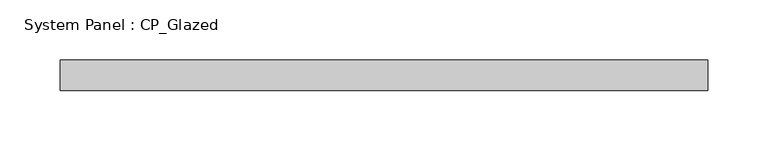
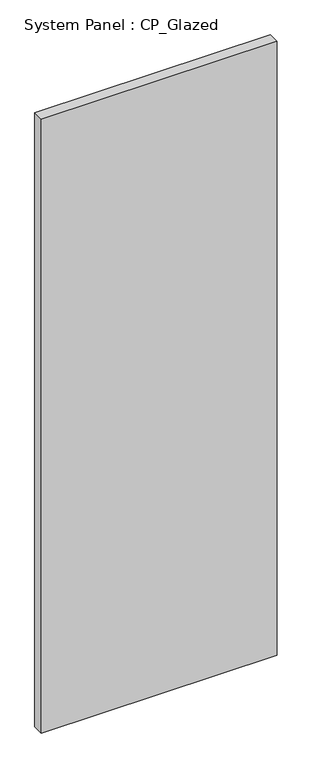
"""IFC4 building model written with IfcOpenShell, lengths in millimetres: plate geometry, System Panel : CP_Glazed."""

from ifc_helpers import new_model, si_unit, origin, origin_with_axes, place, context, project, spatial, polyline, outline, extrude, source, transform, mapped, element, save


def system_panel_cp_glazed_bc70c3fd(model_context):
    return source(origin(), model_context, "Body", "SweptSolid", [
        extrude(outline(polyline([(268.8166667, 19.05), (-268.8166667, 19.05), (-268.8166667, 44.45), (268.8166667, 44.45), (268.8166667, 19.05)])), origin_with_axes(), (0.0, 0.0, 1.0), 1479.55),
    ])


if __name__ == "__main__":
    model = new_model("IFC4")
    model_context = context("Model", 3, world=origin())
    ifc_project = project(units=[si_unit("LENGTHUNIT", "METRE", prefix="MILLI")], contexts=[model_context])
    site = spatial("IfcSite", under=ifc_project)
    building = spatial("IfcBuilding", under=site)
    placement = place(None, origin())
    system_panel_cp_glazed_shape = system_panel_cp_glazed_bc70c3fd(model_context)
    element("IfcPlate", 1, ObjectType="System Panel : CP_Glazed", at=placement, inside=building, context=model_context, shape_type="MappedRepresentation", body=[
        mapped(system_panel_cp_glazed_shape, transform((0.0, 0.0, 0.0), x_axis=(1.0, 0.0, 0.0), y_axis=(0.0, 1.0, 0.0), z_axis=(0.0, 0.0, 1.0))),
    ])
    save(model, "model.ifc")
